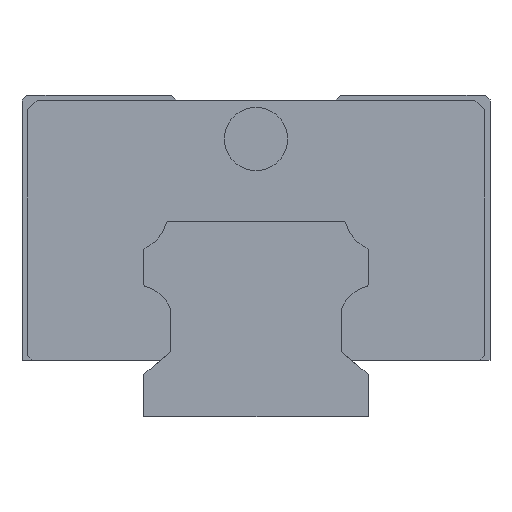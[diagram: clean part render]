
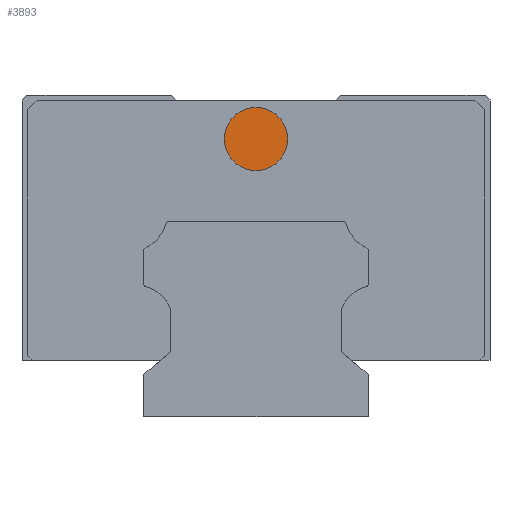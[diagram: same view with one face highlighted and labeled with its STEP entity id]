
A CAD part, left-side view. The second image highlights one B-rep face of the part: STEP entity #3893.
In plain terms, the highlighted planar face has unit normal (-1, 0, 0).
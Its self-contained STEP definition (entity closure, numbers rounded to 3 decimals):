
#296 = CARTESIAN_POINT ( 'NONE',  ( -29.5, 3.25, 28.5 ) ) ;
#1125 = DIRECTION ( 'NONE',  ( 0., 1., 0. ) ) ;
#1233 = DIRECTION ( 'NONE',  ( 0., 1., 0. ) ) ;
#1526 = CARTESIAN_POINT ( 'NONE',  ( -29.5, 0., 28.5 ) ) ;
#1668 = CARTESIAN_POINT ( 'NONE',  ( -29.5, -3.25, 28.5 ) ) ;
#1674 = AXIS2_PLACEMENT_3D ( 'NONE', #3362, #5113, #1233 ) ;
#1986 = VERTEX_POINT ( 'NONE', #1668 ) ;
#2009 = EDGE_CURVE ( 'NONE', #2433, #1986, #5267, .T. ) ;
#2295 = EDGE_CURVE ( 'NONE', #1986, #2433, #3358, .T. ) ;
#2336 = CARTESIAN_POINT ( 'NONE',  ( -29.5, 0., 28.5 ) ) ;
#2433 = VERTEX_POINT ( 'NONE', #296 ) ;
#2735 = DIRECTION ( 'NONE',  ( 0., 1., 0. ) ) ;
#3201 = FACE_OUTER_BOUND ( 'NONE', #4128, .T. ) ;
#3358 = CIRCLE ( 'NONE', #4079, 3.25 ) ;
#3362 = CARTESIAN_POINT ( 'NONE',  ( -29.5, 0., 28.5 ) ) ;
#3528 = AXIS2_PLACEMENT_3D ( 'NONE', #1526, #5000, #1125 ) ;
#3893 = ADVANCED_FACE ( 'NONE', ( #3201 ), #4104, .T. ) ;
#4029 = DIRECTION ( 'NONE',  ( 1., 0., 0. ) ) ;
#4044 = ORIENTED_EDGE ( 'NONE', *, *, #2009, .F. ) ;
#4079 = AXIS2_PLACEMENT_3D ( 'NONE', #2336, #4029, #2735 ) ;
#4104 = PLANE ( 'NONE',  #3528 ) ;
#4105 = ORIENTED_EDGE ( 'NONE', *, *, #2295, .F. ) ;
#4128 = EDGE_LOOP ( 'NONE', ( #4105, #4044 ) ) ;
#5000 = DIRECTION ( 'NONE',  ( -1., 0., 0. ) ) ;
#5113 = DIRECTION ( 'NONE',  ( 1., 0., 0. ) ) ;
#5267 = CIRCLE ( 'NONE', #1674, 3.25 ) ;
